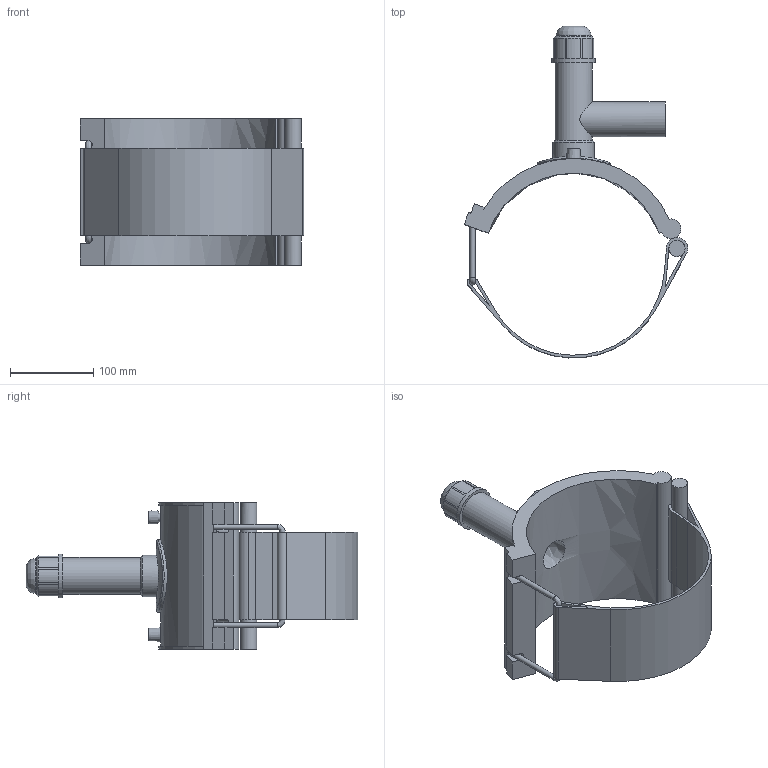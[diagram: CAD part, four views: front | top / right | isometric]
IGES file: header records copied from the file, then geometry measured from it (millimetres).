
Global section: file name: 5963BB03080013.ipt; native system: Autodesk Inventor 2019; preprocessor: unknown; author: KIM; date: 20210830.101433; units: millimetre
Bounding box: 268.63 x 398.85 x 176.02 mm (x, y, z)
Volume: 1328234.4 mm3; surface area: 311708.6 mm2
Topology: 2 solids, 2 shells, 122 faces, 304 edges, 195 vertices
Faces by surface type: plane 69, cylinder 29, revolution 12, cone 11, bspline 1
Full cylindrical faces by diameter (mm): 4 x2, 6.124 x2, 19.347 x1, 41.99 x1, 42.1 x1, 44.615 x1, 49.864 x1, 52.488 x1, 87.48 x1
